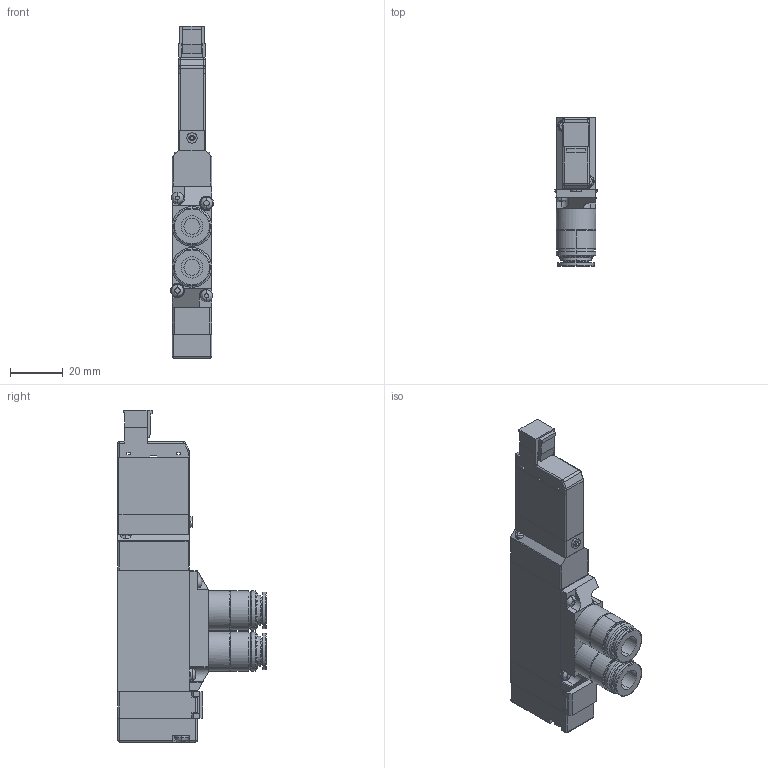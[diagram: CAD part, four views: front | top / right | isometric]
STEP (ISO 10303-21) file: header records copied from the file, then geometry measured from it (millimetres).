
FILE_DESCRIPTION( (''), '2;1');
FILE_NAME ('CVICAD02.3360.F15T1-FJ-PS_21544.stp','2021-07-12T19:13:06',(''),(''),'spGate 12.6.6','','');
FILE_SCHEMA (('AUTOMOTIVE_DESIGN'));
Length unit declared in the file: millimetre
Products named in the file (8): Assembly; CVICAD02-prt0; CVICAD02-prt1; CVICAD02-prt2; CVICAD02-prt3; CVICAD02-prt4; CVICAD02-prt5; CVICAD02-prt6
Assembly tree (7 placements, depth 2):
  Assembly
    CVICAD02-prt0
    CVICAD02-prt1
    CVICAD02-prt2
    CVICAD02-prt3
    CVICAD02-prt4
    CVICAD02-prt5
    CVICAD02-prt6
Bounding box: 16.2 x 56 x 125.5 mm (x, y, z)
Volume: 51754 mm3; surface area: 21243.9 mm2
Topology: 7 solids, 7 shells, 464 faces, 1174 edges, 743 vertices
Faces by surface type: plane 243, cylinder 154, bspline 62, sphere 5
Entity records: 24010 total; most frequent: CARTESIAN_POINT 3652, ORIENTED_EDGE 2330, DIRECTION 2153, COLOUR_RGB 1636, PRESENTATION_STYLE_ASSIGNMENT 1636, STYLED_ITEM 1636, EDGE_CURVE 1165, DRAUGHTING_PRE_DEFINED_CURVE_FONT 1165
